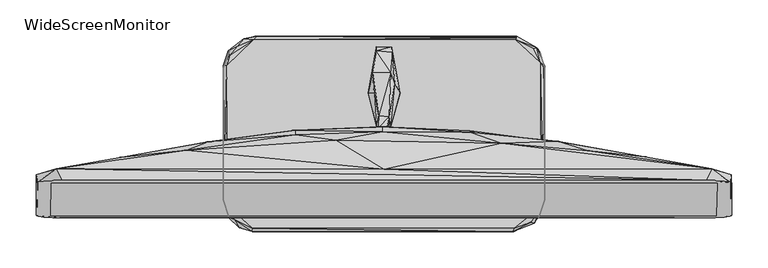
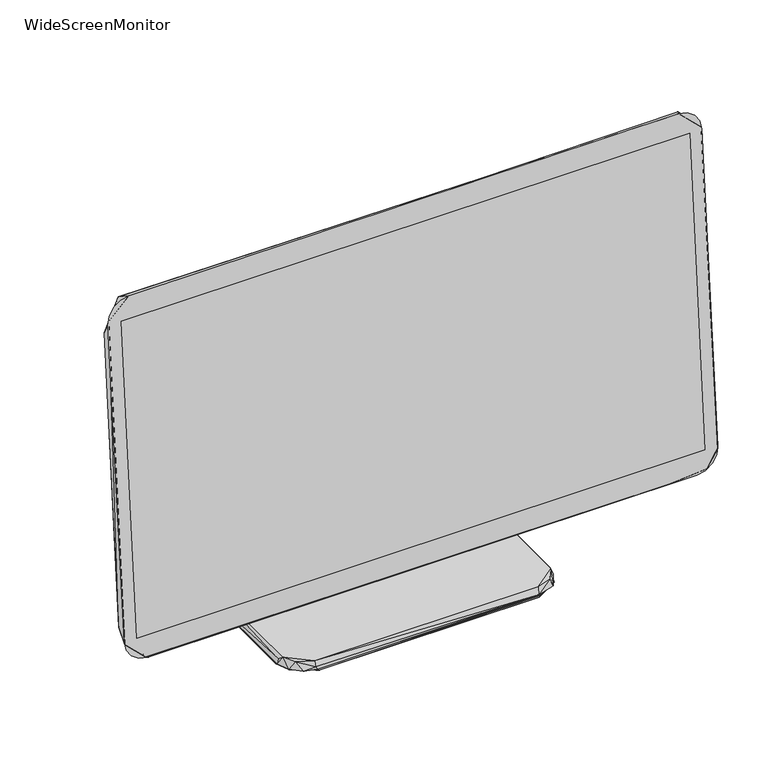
"""IFC4 building model written with IfcOpenShell, lengths in millimetres: furniture geometry, WideScreenMonitor : 0.96 m x 0.271 m."""

from ifc_helpers import new_model, si_unit, origin, place, context, project, spatial, triangles, source, transform, mapped, element, save


def widescreenmonitor_52dc5cf8(model_context):
    return source(origin(), model_context, "Body", "Tessellation", [
        triangles([(-459.727898, -112.9035827, 140.5039147), (458.6284012, -112.9035827, 140.5039147), (-458.9528, -67.9484733, 654.2705292), (459.7910119, -67.9484733, 654.2705292)], [[1, 2, 3], [2, 4, 3]], closed=False),
        triangles([(-22.028729, 57.0133941, 15.0658932), (-10.919135, 115.2611514, 38.4477168), (-10.7899528, 120.2992341, 15.0658932), (-15.3112986, 84.3287371, 63.0679073), (-13.7611229, 56.3674851, 192.2403734), (-10.5315905, 11.9421274, 354.2248901), (-14.0194863, 49.9084226, 15.0658932), (0.0612784, 46.4205223, 15.0658932), (-4.8476113, 6.1289676, 358.7461985), (13.9524925, 49.9084226, 15.0658932), (9.560329, 10.5211329, 357.1960387), (22.0909186, 57.0133941, 15.0658932), (10.7229601, 120.2992341, 15.0658932), (11.4980479, 113.0650736, 40.6437946), (14.9859437, 69.2856237, 126.6474113), (9.0436034, 85.1038352, 65.6515296), (-7.3020576, 24.9183418, 384.529036), (7.3642449, 24.1432552, 387.88777), (-2.3931662, -6.5308037, 379.1034588), (-7.0436937, 8.4542316, 395.2511287), (7.75179, -2.9137262, 380.6536185), (2.4553549, -0.588462, 395.6386777)], [[1, 2, 3], [1, 4, 2], [1, 5, 4], [1, 6, 5], [1, 7, 6], [7, 8, 9], [7, 9, 6], [8, 10, 11], [8, 11, 9], [10, 12, 11], [12, 13, 14], [12, 14, 15], [12, 15, 11], [2, 13, 3], [2, 14, 13], [2, 16, 14], [2, 4, 16], [14, 16, 15], [4, 5, 17], [4, 17, 16], [16, 18, 15], [16, 17, 18], [15, 18, 11], [5, 6, 17], [6, 19, 20], [6, 9, 19], [6, 20, 17], [9, 21, 19], [9, 11, 21], [11, 18, 21], [20, 19, 22], [20, 22, 18], [20, 18, 17], [19, 21, 22], [22, 21, 18]], closed=False),
        triangles([(-17.9351323, -9.982151, 391.7711449), (-17.0308691, 8.6199584, 403.9141537), (17.1599821, 8.7491423, 405.0768007), (-122.7881356, 5.0028827, 486.2525508), (-2.3041914, 9.6534124, 497.6704222), (118.2667183, 4.615337, 429.6212328), (118.2667183, 2.5484389, 542.3671489), (238.8376382, -11.1447833, 427.295975), (238.8376382, -10.2405132, 550.7639474), (359.4085127, -36.7226904, 434.9675634), (-362.2506357, -37.4977748, 435.2259416), (-362.2506357, -31.9429789, 567.8657378), (-242.8423356, -10.886421, 551.7973872), (-479.8925466, -56.0227841, 635.2190758), (-122.7881356, -0.8102749, 576.2624637), (-2.3041914, 3.1943422, 573.5496932), (359.4085127, -31.2970722, 566.832298), (479.5049249, -56.0227841, 634.1856359), (-272.9415522, -22.1251984, 649.4290369), (162.1461348, -13.0825022, 636.8984064), (282.071173, -22.9002851, 650.4624767), (-452.2477223, -48.3490065, 681.8535112), (-66.8948585, -8.9487026, 631.3435856), (452.5060278, -48.3490065, 681.8535112), (-478.084045, -66.7448404, 660.1511295), (-444.4968873, -64.161209, 690.5086515), (444.4968146, -64.161209, 690.5086515), (-0.021136, -48.9949155, 679.1407408), (478.7298268, -67.0032049, 658.0841772), (-479.8925466, -97.7483577, 157.3659214), (-479.1174485, -112.7333896, 135.6634489), (-452.2477223, -98.3942667, 110.0855498), (-446.951316, -115.3170164, 105.047467), (-362.2506357, -67.1323849, 189.9694728), (-362.2506357, -53.8267063, 276.0541165), (-273.5874975, -67.0032049, 137.4719868), (-69.0487014, -50.9326333, 152.9737477), (-0.021136, -102.3988914, 109.9563607), (399.196382, -115.4462055, 104.1431981), (-242.8423356, -46.0237396, 199.7872602), (-122.7881356, -24.5796429, 238.2039923), (161.5002258, -55.7644196, 148.1940431), (452.247686, -98.3942667, 110.0855498), (279.1000062, -66.3572914, 140.9598734), (-2.3041914, -28.8426254, 207.7964915), (118.2667183, -32.8472479, 205.9879718), (359.4085127, -66.6156559, 190.2278509), (238.8376382, -27.2924497, 286.7761547), (359.4085127, -53.1807973, 276.3124765), (460.7736917, -114.6711074, 108.9229118), (479.8925102, -97.6191777, 158.5285322), (479.1174122, -112.7333896, 135.6634489), (-242.8423356, -27.9383587, 286.5177947), (-2.3041914, -11.5323289, 270.1117649), (118.2667183, -11.7906922, 292.3309573), (-122.7881356, -2.8771775, 348.7038972), (-242.8423356, -11.7906922, 427.4251822), (-19.2269491, 3.8402501, 356.325634), (18.4517955, 3.9694337, 357.1006957), (16.9016198, -13.5992301, 359.2967826)], [[1, 2, 3], [2, 4, 5], [2, 5, 3], [3, 5, 6], [6, 5, 7], [6, 7, 8], [8, 7, 9], [8, 9, 10], [11, 12, 13], [11, 14, 12], [4, 13, 15], [4, 15, 16], [4, 16, 5], [10, 9, 17], [10, 17, 18], [13, 12, 19], [13, 19, 15], [5, 16, 7], [7, 16, 20], [7, 20, 9], [9, 20, 21], [9, 21, 17], [12, 14, 22], [12, 22, 19], [15, 19, 23], [15, 23, 16], [16, 23, 20], [17, 21, 24], [17, 24, 18], [14, 25, 22], [25, 26, 22], [26, 27, 22], [27, 28, 22], [27, 24, 28], [27, 29, 24], [29, 18, 24], [22, 28, 19], [19, 28, 23], [23, 28, 20], [28, 24, 20], [20, 24, 21], [30, 31, 25], [30, 32, 33], [30, 25, 14], [30, 33, 31], [30, 34, 32], [30, 35, 34], [30, 11, 35], [30, 14, 11], [32, 36, 37], [32, 37, 38], [32, 38, 39], [32, 39, 33], [32, 34, 36], [36, 34, 40], [36, 40, 41], [36, 41, 37], [38, 42, 43], [38, 43, 39], [38, 37, 42], [42, 44, 43], [42, 37, 45], [42, 45, 46], [42, 46, 44], [44, 47, 43], [44, 46, 48], [44, 49, 47], [44, 48, 49], [39, 43, 50], [43, 51, 50], [43, 47, 51], [50, 51, 52], [52, 51, 29], [51, 47, 49], [51, 49, 10], [51, 10, 18], [51, 18, 29], [37, 41, 45], [34, 35, 40], [40, 35, 53], [40, 53, 41], [45, 41, 54], [45, 54, 55], [45, 55, 46], [46, 55, 48], [35, 11, 53], [49, 48, 10], [53, 56, 41], [53, 57, 56], [53, 11, 57], [41, 56, 54], [54, 56, 58], [54, 58, 59], [54, 59, 55], [55, 59, 6], [55, 6, 8], [55, 8, 48], [48, 8, 10], [56, 57, 4], [56, 2, 58], [56, 4, 2], [58, 1, 60], [58, 2, 1], [58, 60, 59], [60, 1, 3], [60, 3, 59], [59, 3, 6], [57, 11, 13], [57, 13, 4]], closed=False),
        triangles([(-217.131841, 93.9629783, 15.1117911), (182.0636327, 129.8766746, 15.1117911), (-179.860515, 130.0058546, 14.9826088), (215.9762248, 99.2594119, 14.9826088), (220.3683804, 91.8960804, 10.3320819), (222.1769182, 93.8338074, 2.5812017), (210.938142, 119.2837983, 2.8395643), (206.5459864, 117.8628094, 14.7242466), (-214.8065832, 115.1499935, 2.8395643), (-202.6635381, 121.4798851, 14.5950666), (-193.4916597, 131.6852124, 2.8395643), (-213.1272344, 108.4325711, 14.8534277), (-176.3726101, 134.9147392, 5.1648283), (183.2262616, 134.7855592, 2.5812017), (182.5803708, 133.1062195, 9.8153563), (-215.0649432, -114.6726244, 2.8395643), (-206.5389919, -117.9021511, 14.7242466), (-215.840023, -99.9446626, 14.9826088), (-222.0407347, -94.519049, 2.7103831), (-199.9507313, -129.0117383, 2.8395643), (-181.9274128, -129.9160163, 15.1117911), (-182.8316817, -134.049821, 7.8776368), (-180.7647839, -134.6957209, 2.5812017), (177.2839099, -134.8249009, 5.0356472), (179.7383567, -129.9160163, 15.1117911), (202.6705326, -121.5192269, 14.5950666), (207.7086153, -123.3277647, 2.8395643), (216.1053957, -100.8489315, 14.9826088), (222.0477473, -98.2653047, 2.5812017), (-220.4905568, -94.519049, 10.0737197), (-222.0407347, 93.9629783, 2.5812017), (219.9808313, -93.614771, 10.9779886)], [[1, 2, 3], [4, 5, 6], [4, 6, 7], [4, 7, 8], [4, 8, 2], [9, 10, 11], [9, 12, 10], [12, 3, 10], [10, 3, 11], [11, 13, 14], [11, 3, 13], [3, 2, 15], [3, 15, 13], [13, 15, 14], [2, 8, 7], [2, 7, 14], [2, 14, 15], [16, 17, 18], [16, 18, 19], [16, 20, 17], [17, 21, 18], [17, 22, 21], [17, 20, 22], [20, 23, 22], [22, 23, 24], [22, 24, 21], [21, 24, 25], [21, 25, 2], [21, 1, 18], [21, 2, 1], [24, 26, 25], [24, 27, 26], [25, 26, 28], [25, 28, 4], [25, 4, 2], [26, 27, 28], [27, 29, 28], [19, 30, 31], [19, 18, 30], [30, 18, 1], [30, 1, 31], [28, 32, 4], [28, 29, 32], [32, 29, 5], [32, 5, 4], [29, 6, 5], [31, 1, 12], [31, 12, 9], [1, 3, 12]], closed=False),
        triangles([(-477.3250797, -66.0989269, 668.4544744), (-443.8671292, -64.161209, 690.6736851), (-469.4450375, -65.0654825, 680.0807997), (-457.689505, -64.4195735, 687.9608419), (480.0378502, -67.2615603, 654.6320623), (443.8670566, -64.161209, 690.6736851), (469.4449648, -65.0654825, 680.0807997), (457.6894687, -64.4195735, 687.9608419), (477.3250071, -66.0989269, 668.4544744), (-480.0378865, -112.3458406, 140.1848027), (-477.3250797, -113.5084785, 126.3623996), (-443.8671292, -115.4462055, 104.1431981), (480.0378502, -112.3458406, 140.1848027), (-480.0378865, -67.2615603, 654.6320623), (-469.4450375, -114.5419365, 114.7360653), (-457.689505, -115.1878273, 106.8560049), (443.8670566, -115.4462055, 104.1431981), (457.6894687, -115.1878273, 106.8560049), (469.4449648, -114.5419365, 114.7360653), (477.3250071, -113.5084785, 126.3623996)], [[1, 2, 3], [3, 2, 4], [2, 5, 6], [6, 7, 8], [6, 9, 7], [6, 5, 9], [10, 11, 12], [10, 12, 13], [10, 13, 5], [10, 5, 14], [11, 15, 12], [15, 16, 12], [12, 17, 13], [17, 18, 19], [17, 19, 20], [17, 20, 13], [14, 2, 1], [14, 5, 2]], closed=False),
        triangles([(-222.0080513, -90.8043048, 2.5836365), (-222.0080513, 90.8084379, 2.5836365), (-222.0080513, 90.8084379, 9.9e-06), (-222.0080513, -90.8043048, 9.9e-06), (221.9475354, -90.8043048, 9.9e-06), (221.9475354, -90.8043048, 2.5836365), (221.9475354, 90.8084379, 2.5836365), (221.9475354, 90.8084379, 9.9e-06), (-213.223722, 115.6071877, 1.6793673), (-178.0258704, 134.7260152, 9.9e-06), (215.3592929, 112.5068318, 2.5836365), (212.1297481, 117.4157255, 9.9e-06), (178.0945436, 134.7260152, 9.9e-06), (-180.6094882, 134.2092862, 2.5836365), (181.3240703, 134.0801153, 2.5836365), (-214.1280091, -114.3112457, 1.6793673), (-178.0258704, -134.7219094, 9.9e-06), (-181.3845862, -134.0759822, 2.5836365), (180.5489722, -134.2051804, 2.5836365), (178.0945436, -134.7219094, 9.9e-06), (213.2923951, -115.6030636, 1.6793673)], [[1, 2, 3], [4, 3, 5], [6, 5, 7], [5, 3, 8], [5, 8, 7], [3, 2, 9], [3, 9, 10], [3, 10, 8], [7, 8, 11], [8, 12, 11], [8, 10, 13], [8, 13, 12], [9, 14, 10], [14, 13, 10], [14, 15, 13], [13, 15, 12], [15, 11, 12], [16, 17, 18], [16, 4, 17], [16, 1, 4], [18, 17, 19], [17, 4, 20], [17, 20, 19], [20, 4, 5], [20, 5, 21], [20, 21, 19], [21, 5, 6], [1, 3, 4]], closed=False),
    ])


if __name__ == "__main__":
    model = new_model("IFC4")
    model_context = context("Model", 3, world=origin())
    ifc_project = project(units=[si_unit("LENGTHUNIT", "METRE", prefix="MILLI")], contexts=[model_context])
    site = spatial("IfcSite", under=ifc_project)
    building = spatial("IfcBuilding", under=site)
    placement = place(None, origin())
    widescreenmonitor_shape = widescreenmonitor_52dc5cf8(model_context)
    element("IfcFurniture", 1, ObjectType="WideScreenMonitor : 0.96 m x 0.271 m", at=placement, inside=building, context=model_context, shape_type="MappedRepresentation", body=[
        mapped(widescreenmonitor_shape, transform((0.0, 0.0, 0.0), x_axis=(1.0, 0.0, 0.0), y_axis=(0.0, 1.0, 0.0), z_axis=(0.0, 0.0, 1.0))),
    ])
    save(model, "model.ifc")
